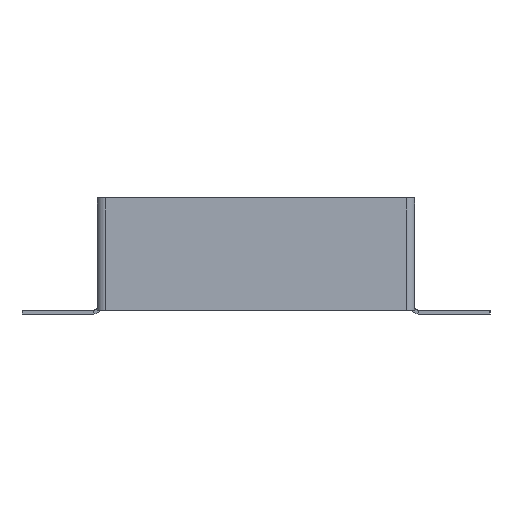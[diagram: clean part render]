
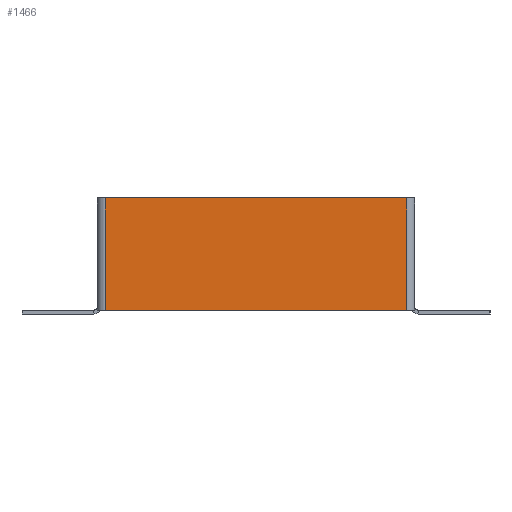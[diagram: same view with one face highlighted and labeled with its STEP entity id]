
A CAD part, front view. The second image highlights one B-rep face of the part: STEP entity #1466.
In plain terms, the highlighted planar face has unit normal (0, -1, 0).
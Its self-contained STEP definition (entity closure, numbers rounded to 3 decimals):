
#101 = PLANE ( 'NONE',  #3127 ) ;
#544 = DIRECTION ( 'NONE',  ( 0., 0., 1. ) ) ;
#558 = EDGE_CURVE ( 'NONE', #1211, #3313, #2174, .T. ) ;
#788 = ORIENTED_EDGE ( 'NONE', *, *, #558, .F. ) ;
#806 = CARTESIAN_POINT ( 'NONE',  ( -78., -2., 0. ) ) ;
#833 = EDGE_CURVE ( 'NONE', #4268, #5355, #2580, .T. ) ;
#1211 = VERTEX_POINT ( 'NONE', #3303 ) ;
#1321 = ORIENTED_EDGE ( 'NONE', *, *, #3514, .T. ) ;
#1406 = LINE ( 'NONE', #806, #3401 ) ;
#1466 = ADVANCED_FACE ( 'NONE', ( #2449 ), #101, .F. ) ;
#1506 = CARTESIAN_POINT ( 'NONE',  ( 78., -2., -58. ) ) ;
#2174 = LINE ( 'NONE', #4998, #4373 ) ;
#2322 = DIRECTION ( 'NONE',  ( 0., 1., 0. ) ) ;
#2351 = DIRECTION ( 'NONE',  ( 1., 0., 0. ) ) ;
#2449 = FACE_OUTER_BOUND ( 'NONE', #4498, .T. ) ;
#2559 = ORIENTED_EDGE ( 'NONE', *, *, #833, .F. ) ;
#2580 = LINE ( 'NONE', #2837, #4369 ) ;
#2619 = CARTESIAN_POINT ( 'NONE',  ( 78., -2., 0. ) ) ;
#2768 = CARTESIAN_POINT ( 'NONE',  ( 0., -2., 0. ) ) ;
#2837 = CARTESIAN_POINT ( 'NONE',  ( -80., -2., 0. ) ) ;
#2842 = DIRECTION ( 'NONE',  ( -1., 0., 0. ) ) ;
#3127 = AXIS2_PLACEMENT_3D ( 'NONE', #2768, #2322, #544 ) ;
#3155 = CARTESIAN_POINT ( 'NONE',  ( -78., -2., 0. ) ) ;
#3303 = CARTESIAN_POINT ( 'NONE',  ( 78., -2., -58. ) ) ;
#3313 = VERTEX_POINT ( 'NONE', #4797 ) ;
#3401 = VECTOR ( 'NONE', #3904, 1000. ) ;
#3408 = LINE ( 'NONE', #1506, #5051 ) ;
#3514 = EDGE_CURVE ( 'NONE', #1211, #5355, #3408, .T. ) ;
#3883 = EDGE_CURVE ( 'NONE', #4268, #3313, #1406, .T. ) ;
#3904 = DIRECTION ( 'NONE',  ( 0., 0., -1. ) ) ;
#4162 = ORIENTED_EDGE ( 'NONE', *, *, #3883, .T. ) ;
#4268 = VERTEX_POINT ( 'NONE', #3155 ) ;
#4369 = VECTOR ( 'NONE', #2351, 1000. ) ;
#4373 = VECTOR ( 'NONE', #2842, 1000. ) ;
#4498 = EDGE_LOOP ( 'NONE', ( #4162, #788, #1321, #2559 ) ) ;
#4584 = DIRECTION ( 'NONE',  ( 0., 0., 1. ) ) ;
#4797 = CARTESIAN_POINT ( 'NONE',  ( -78., -2., -58. ) ) ;
#4998 = CARTESIAN_POINT ( 'NONE',  ( -80., -2., -58. ) ) ;
#5051 = VECTOR ( 'NONE', #4584, 1000. ) ;
#5355 = VERTEX_POINT ( 'NONE', #2619 ) ;
